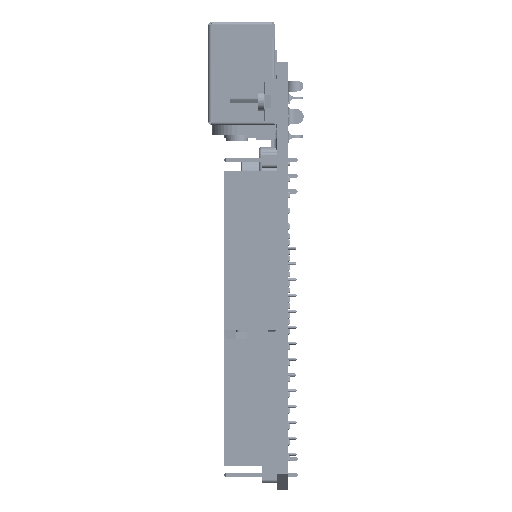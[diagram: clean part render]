
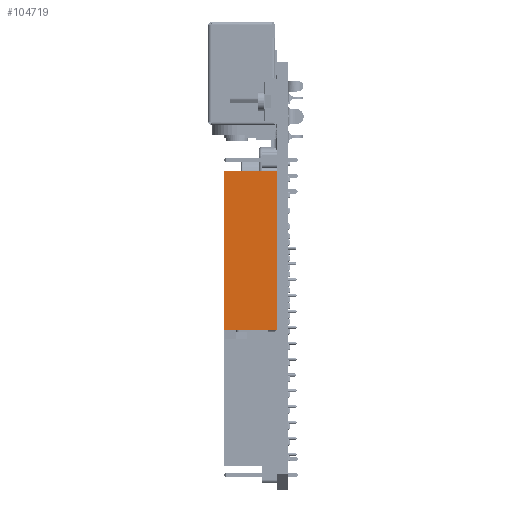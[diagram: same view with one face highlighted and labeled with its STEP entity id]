
A CAD part, left-side view. The second image highlights one B-rep face of the part: STEP entity #104719.
In plain terms, the highlighted planar face has unit normal (-1, 0, 0) as drawn and (0, 0, -1) by its records, which use the part's own axes.
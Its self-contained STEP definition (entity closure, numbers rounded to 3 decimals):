
#22017 = VERTEX_POINT ( 'NONE', #69718 ) ;
#22044 = VERTEX_POINT ( 'NONE', #69752 ) ;
#22164 = VERTEX_POINT ( 'NONE', #69913 ) ;
#22188 = VERTEX_POINT ( 'NONE', #69944 ) ;
#31651 = EDGE_LOOP ( 'NONE', ( #33003, #33009, #33014, #33019 ) ) ;
#33003 = ORIENTED_EDGE ( 'NONE', *, *, #46599, .T. ) ;
#33009 = ORIENTED_EDGE ( 'NONE', *, *, #45835, .F. ) ;
#33014 = ORIENTED_EDGE ( 'NONE', *, *, #44917, .F. ) ;
#33019 = ORIENTED_EDGE ( 'NONE', *, *, #46590, .T. ) ;
#44917 = EDGE_CURVE ( 'NONE', #22044, #22017, #99634, .T. ) ;
#45835 = EDGE_CURVE ( 'NONE', #22017, #22164, #218354, .T. ) ;
#46590 = EDGE_CURVE ( 'NONE', #22044, #22188, #220119, .T. ) ;
#46599 = EDGE_CURVE ( 'NONE', #22188, #22164, #220171, .T. ) ;
#69718 = CARTESIAN_POINT ( 'NONE',  ( -1.27, 8.51, -1.205 ) ) ;
#69752 = CARTESIAN_POINT ( 'NONE',  ( 24.13, 8.51, -1.205 ) ) ;
#69913 = CARTESIAN_POINT ( 'NONE',  ( -1.27, 0., -1.205 ) ) ;
#69944 = CARTESIAN_POINT ( 'NONE',  ( 24.13, 0., -1.205 ) ) ;
#86776 = DIRECTION ( 'NONE',  ( -1., 0., 0. ) ) ;
#86784 = CARTESIAN_POINT ( 'NONE',  ( -1.27, 8.51, -1.205 ) ) ;
#99634 = LINE ( 'NONE', #86784, #99653 ) ;
#99653 = VECTOR ( 'NONE', #86776, 1000. ) ;
#104719 = ADVANCED_FACE ( 'NONE', ( #179830 ), #175840, .F. ) ;
#162177 = AXIS2_PLACEMENT_3D ( 'NONE', #175809, #175848, #175852 ) ;
#167956 = CARTESIAN_POINT ( 'NONE',  ( 24.13, 8.51, -1.205 ) ) ;
#167994 = DIRECTION ( 'NONE',  ( 0., -1., 0. ) ) ;
#168006 = CARTESIAN_POINT ( 'NONE',  ( -1.27, 0., -1.205 ) ) ;
#168012 = DIRECTION ( 'NONE',  ( -1., 0., 0. ) ) ;
#175809 = CARTESIAN_POINT ( 'NONE',  ( -1.27, 8.51, -1.205 ) ) ;
#175840 = PLANE ( 'NONE',  #162177 ) ;
#175848 = DIRECTION ( 'NONE',  ( 0., 0., 1. ) ) ;
#175852 = DIRECTION ( 'NONE',  ( 1., 0., 0. ) ) ;
#179830 = FACE_OUTER_BOUND ( 'NONE', #31651, .T. ) ;
#190203 = DIRECTION ( 'NONE',  ( 0., -1., 0. ) ) ;
#190204 = CARTESIAN_POINT ( 'NONE',  ( -1.27, 8.51, -1.205 ) ) ;
#218354 = LINE ( 'NONE', #190204, #218367 ) ;
#218367 = VECTOR ( 'NONE', #190203, 1000. ) ;
#220119 = LINE ( 'NONE', #167956, #220145 ) ;
#220145 = VECTOR ( 'NONE', #167994, 1000. ) ;
#220171 = LINE ( 'NONE', #168006, #220186 ) ;
#220186 = VECTOR ( 'NONE', #168012, 1000. ) ;
